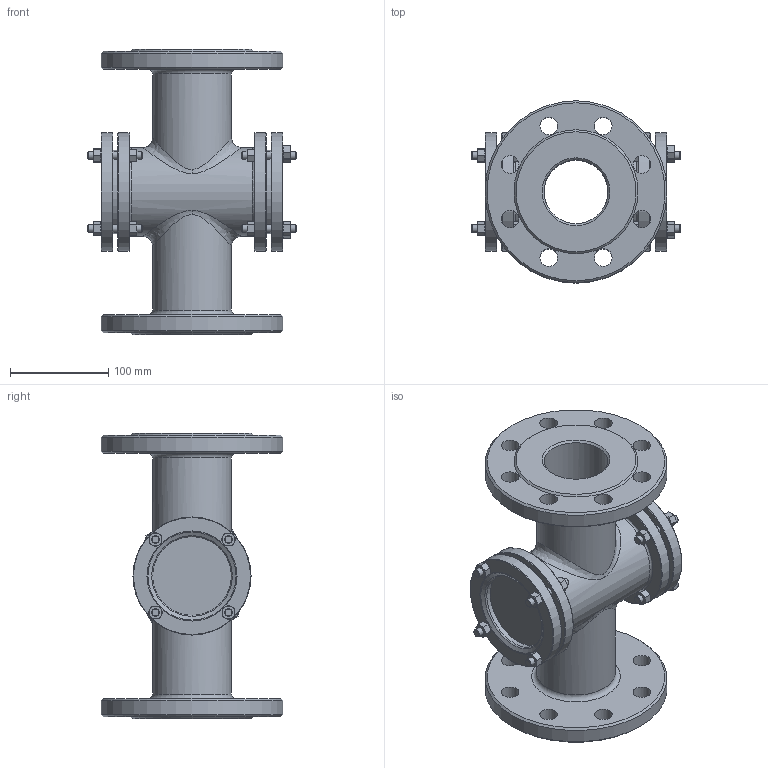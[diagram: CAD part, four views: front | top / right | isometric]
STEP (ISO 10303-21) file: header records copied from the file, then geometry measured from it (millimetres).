
FILE_DESCRIPTION(('STEP AP242'), '1');
FILE_NAME('SG2-34G-F Ñòåêëî ñìîòðîâîå DN.ru Äó65 Ðó16', '', ('UNSPECIFIED'), ('UNSPECIFIED'), 'C3D Converter', 'C3D Toolkit', '');
FILE_SCHEMA(('AP242_MANAGED_MODEL_BASED_3D_ENGINEERING_MIM_LF { 1 0 10303 442 1 1 4 }'));
Length unit declared in the file: millimetre
Products named in the file (1): SG2-34G-F
Bounding box: 212.5 x 185 x 290 mm (x, y, z)
Volume: 1656230.8 mm3; surface area: 358914.4 mm2
Topology: 1 solids, 1 shells, 535 faces, 1296 edges, 801 vertices
Faces by surface type: cone 226, plane 195, cylinder 67, bspline 31, torus 16
Full cylindrical faces by diameter (mm): 8 x24, 18 x16, 65 x2, 80 x5, 85 x2, 90 x1, 120 x4, 185 x2
Entity records: 31837 total; most frequent: CARTESIAN_POINT 18787, ORIENTED_EDGE 2382, DIRECTION 2146, EDGE_CURVE 1191, AXIS2_PLACEMENT_3D 972, VERTEX_POINT 795, EDGE_LOOP 722, FACE_BOUND 599
